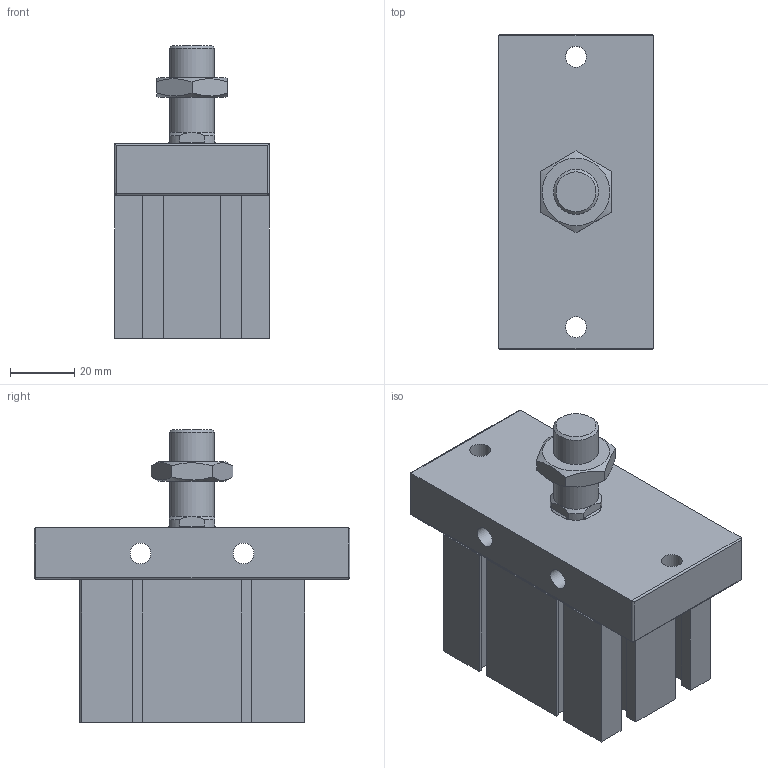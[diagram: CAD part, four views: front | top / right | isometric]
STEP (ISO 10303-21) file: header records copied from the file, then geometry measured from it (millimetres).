
FILE_DESCRIPTION((''),'2;1');
FILE_NAME('J:\3D電子目錄\氣缸\ND\ND\ND40-FB\ND40x10-FB.stp','2008-03-13T09:18:13',('66-2f-008'),(''),'Autodesk Inventor 11','Autodesk Inventor 11','');
FILE_SCHEMA(('AUTOMOTIVE_DESIGN { 1 0 10303 214 1 1 1 1 }'));
Length unit declared in the file: millimetre
Products named in the file (1): ND40-FB
Bounding box: 48 x 98 x 91 mm (x, y, z)
Volume: 205607.9 mm3; surface area: 37633.5 mm2
Topology: 2 solids, 2 shells, 153 faces, 391 edges, 251 vertices
Faces by surface type: plane 99, cylinder 23, cone 14, bspline 14, sphere 2, torus 1
Full cylindrical faces by diameter (mm): 2.2 x2, 6.5 x2, 14 x2, 29 x1, 42 x1, 44.5 x1
Entity records: 4520 total; most frequent: CARTESIAN_POINT 976, ORIENTED_EDGE 708, DIRECTION 698, EDGE_CURVE 354, VECTOR 250, LINE 250, VERTEX_POINT 246, AXIS2_PLACEMENT_3D 224
